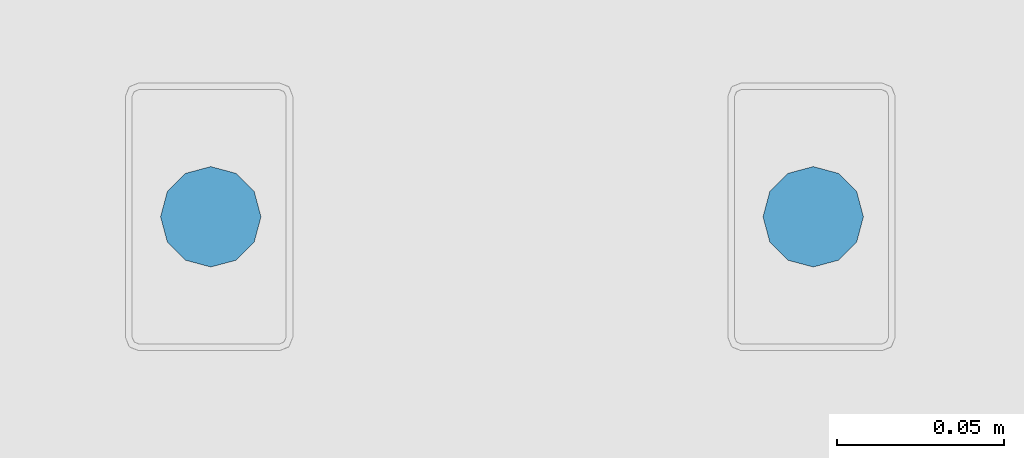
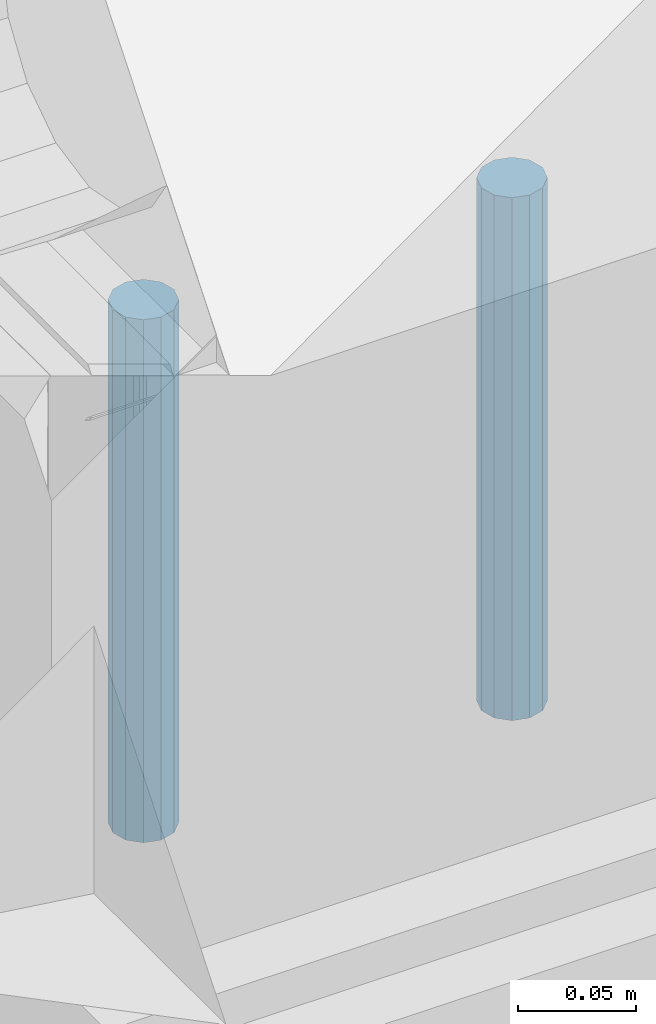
# One storey, part 201 of 230: 2 beams.
"""IFC4X3_ADD2 building model written with IfcOpenShell, lengths in millimetres."""

import ifcopenshell
import ifcopenshell.guid

model = None  # the IFC model being written
_history = None  # IfcOwnerHistory: only IFC2X3 demands one
_inside = {}  # id of a spatial element -> (the spatial element, [elements in it])
_under = {}  # id of a project, library or spatial element -> (it, [spatial elements below it])
_declared = {}  # id of a project -> (the project, [libraries it declares])
_typed = {}  # id of a type object -> (the type object, [elements of that type])
_made_of = {}  # id of a material, layer set ... -> (it, [elements and type objects made of it])


def new_model(schema):
    """Start an empty IFC model of exactly this schema.

    Asked for "IFC4X3", IfcOpenShell would pick the latest addendum, in which some entities
    have other attributes; the version numbers below select the first issue.
    IFC2X3 requires an IfcOwnerHistory on every rooted entity: one is made here for all.
    """
    global model, _history
    if schema == "IFC4X3":
        model = ifcopenshell.file(schema_version=(4, 3, 0, 0))
    else:
        model = ifcopenshell.file(schema=schema)
    _inside.clear()
    _under.clear()
    _declared.clear()
    _typed.clear()
    _made_of.clear()
    _history = None
    if model.schema == "IFC2X3":
        org = make("IfcOrganization", Name="unknown")
        user = make(
            "IfcPersonAndOrganization",
            ThePerson=make("IfcPerson", FamilyName="unknown"),
            TheOrganization=org,
        )
        app = make(
            "IfcApplication",
            ApplicationDeveloper=org,
            Version="unknown",
            ApplicationFullName="unknown",
            ApplicationIdentifier="unknown",
        )
        _history = make(
            "IfcOwnerHistory",
            OwningUser=user,
            OwningApplication=app,
            ChangeAction="ADDED",
            CreationDate=0,
        )
    return model


def make(cls, **values):
    """One entity of the class cls with the attributes given. An attribute that is None is left unset."""
    return model.create_entity(
        cls, **{name: value for name, value in values.items() if value is not None}
    )


def rooted(cls, **values):
    """An entity with a GlobalId (a new one), such as an element, a storey or a relation."""
    return make(cls, GlobalId=ifcopenshell.guid.new(), OwnerHistory=_history, **values)


def si_unit(unit_type, name, prefix=None):
    """IfcSIUnit, for example si_unit("LENGTHUNIT", "METRE", prefix="MILLI")."""
    return make("IfcSIUnit", UnitType=unit_type, Prefix=prefix, Name=name)


def assignment(units):
    """IfcUnitAssignment: the units of a project."""
    return None if units is None else make("IfcUnitAssignment", Units=units)


def point(xyz):
    """IfcCartesianPoint."""
    return None if xyz is None else make("IfcCartesianPoint", Coordinates=xyz)


def direction(xyz):
    """IfcDirection."""
    return None if xyz is None else make("IfcDirection", DirectionRatios=xyz)


def frame(location, z_axis=None, x_axis=None):
    """IfcAxis2Placement3D, a coordinate frame: its origin and axes. An axis left out is left unset."""
    return make(
        "IfcAxis2Placement3D",
        Location=point(location),
        Axis=direction(z_axis),
        RefDirection=direction(x_axis),
    )


def origin_with_axes():
    """The frame at (0, 0, 0) with the z axis (0, 0, 1) and the x axis (1, 0, 0) written out."""
    return frame((0.0, 0.0, 0.0), z_axis=(0.0, 0.0, 1.0), x_axis=(1.0, 0.0, 0.0))


def place(relative_to, where):
    """IfcLocalPlacement: puts the frame where relative to a parent placement (None: the world)."""
    return make(
        "IfcLocalPlacement", PlacementRelTo=relative_to, RelativePlacement=where
    )


def context(
    kind, dimensions, precision=None, world=None, true_north=None, identifier=None
):
    """IfcGeometricRepresentationContext, for example the 3D "Model" context."""
    return make(
        "IfcGeometricRepresentationContext",
        ContextIdentifier=identifier,
        ContextType=kind,
        CoordinateSpaceDimension=dimensions,
        Precision=precision,
        WorldCoordinateSystem=world,
        TrueNorth=true_north,
    )


def subcontext(parent, identifier, kind, view, scale=None):
    """IfcGeometricRepresentationSubContext, for example "Body" below "Model"."""
    return make(
        "IfcGeometricRepresentationSubContext",
        ContextIdentifier=identifier,
        ContextType=kind,
        ParentContext=parent,
        TargetScale=scale,
        TargetView=view,
    )


def project(units=None, contexts=None):
    """IfcProject with its units and contexts."""
    return rooted(
        "IfcProject",
        Name="project",
        RepresentationContexts=contexts,
        UnitsInContext=assignment(units),
    )


def spatial(cls, under=None, at=None, **own):
    """A site, building, storey or space (cls), placed at a placement, below another one or the project."""
    s = rooted(cls, ObjectPlacement=at, **own)
    if under is not None:
        _under.setdefault(under.id(), (under, []))[1].append(s)
    return s


def point_list(points):
    """IfcCartesianPointList2D or 3D."""
    cls = (
        "IfcCartesianPointList2D" if len(points[0]) == 2 else "IfcCartesianPointList3D"
    )
    return make(cls, CoordList=points)


def polygons(points, faces, closed=None, point_numbers=None):
    """IfcPolygonalFaceSet: a face is its outer loop, then its inner loops; points numbered from 1."""
    made = []
    for loops in faces:
        if len(loops) == 1:
            made.append(make("IfcIndexedPolygonalFace", CoordIndex=loops[0]))
        else:
            made.append(
                make(
                    "IfcIndexedPolygonalFaceWithVoids",
                    CoordIndex=loops[0],
                    InnerCoordIndices=loops[1:],
                )
            )
    return make(
        "IfcPolygonalFaceSet",
        Coordinates=point_list(points),
        Closed=closed,
        Faces=made,
        PnIndex=point_numbers,
    )


def shape(context_of_items, identifier, shape_type, items):
    """IfcShapeRepresentation: the items that make up one representation, for example the "Body"."""
    return make(
        "IfcShapeRepresentation",
        ContextOfItems=context_of_items,
        RepresentationIdentifier=identifier,
        RepresentationType=shape_type,
        Items=items,
    )


def made_of(thing, what):
    """Note that an element or type object is made of a material, layer set ...; save() writes the relation."""
    if what is not None:
        _made_of.setdefault(what.id(), (what, []))[1].append(thing)
    return thing


def element(
    cls,
    number,
    at=None,
    inside=None,
    cuts=None,
    type_object=None,
    material=None,
    context=None,
    identifier="Body",
    shape_type=None,
    held_by="IfcProductDefinitionShape",
    body=None,
    shapes=None,
    **own,
):
    """One element of the class cls, such as IfcWall. Its Tag is "e" and its number.

    at: its placement. inside: the storey or other place that contains it. cuts: it is an
    opening in that element (IfcRelVoidsElement). A single representation is given by context,
    identifier, shape_type and body (its items); several are given by shapes. held_by: the class
    of the entity that holds the representations. save() writes the other relations.
    """
    e = rooted(cls, Tag="e%d" % number, ObjectPlacement=at, **own)
    if body is not None:
        shapes = [shape(context, identifier, shape_type, body)]
    if shapes is not None:
        e.Representation = make(held_by, Representations=shapes)
    if inside is not None:
        _inside.setdefault(inside.id(), (inside, []))[1].append(e)
    if cuts is not None:
        rooted(
            "IfcRelVoidsElement", RelatingBuildingElement=cuts, RelatedOpeningElement=e
        )
    if type_object is not None:
        _typed.setdefault(type_object.id(), (type_object, []))[1].append(e)
    return made_of(e, material)


def aggregate(whole, parts):
    """IfcRelAggregates: a whole, such as a stair, and the parts it consists of."""
    return rooted("IfcRelAggregates", RelatingObject=whole, RelatedObjects=parts)


def save(model, path):
    """Write the relations noted so far, then the file.

    IfcRelAggregates (storeys below a building ...), IfcRelContainedInSpatialStructure (elements
    in a storey), IfcRelDefinesByType, IfcRelAssociatesMaterial and IfcRelDeclares: one each for
    every whole, place, type object, material and project.
    """
    for whole, parts in _under.values():
        aggregate(whole, parts)
    for where, things in _inside.values():
        rooted(
            "IfcRelContainedInSpatialStructure",
            RelatedElements=things,
            RelatingStructure=where,
        )
    for kind, things in _typed.values():
        rooted("IfcRelDefinesByType", RelatedObjects=things, RelatingType=kind)
    for what, things in _made_of.values():
        rooted("IfcRelAssociatesMaterial", RelatedObjects=things, RelatingMaterial=what)
    for by, libraries in _declared.values():
        rooted("IfcRelDeclares", RelatingContext=by, RelatedDefinitions=libraries)
    model.write(path)


model = new_model("IFC4X3_ADD2")

# Units and contexts
model_context = context("Model", 3, precision=1e-05, world=origin_with_axes(), true_north=direction((0.0, 1.0)))
body_context = subcontext(model_context, "Body", "Model", "MODEL_VIEW")
ifc_project = project(units=[si_unit("LENGTHUNIT", "METRE", prefix="MILLI"), si_unit("AREAUNIT", "SQUARE_METRE"), si_unit("VOLUMEUNIT", "CUBIC_METRE"), si_unit("PLANEANGLEUNIT", "RADIAN"), si_unit("TIMEUNIT", "SECOND"), si_unit("MASSUNIT", "GRAM")], contexts=[model_context])

# Site, building, storey
site_placement = place(None, origin_with_axes())
site = spatial("IfcSite", under=ifc_project, at=site_placement, Name="Site", CompositionType="ELEMENT")
building_placement = place(site_placement, origin_with_axes())
building = spatial("IfcBuilding", under=site, at=building_placement, Name="IFC Building Story")
storey_placement = place(building_placement, origin_with_axes())
storey = spatial("IfcBuildingStorey", under=building, at=storey_placement, Name="ETAGE 00 (0)", Elevation=0.0)

# Beams
beam_1_placement = place(storey_placement, origin_with_axes())
element("IfcBeam", 1, at=beam_1_placement, inside=storey, Name="SD11", ObjectType="D30", context=body_context, shape_type="Tessellation", body=[
    polygons([(48206.1886362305, 12640.0006109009, 3960.0), (48206.1886362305, 12640.0006109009, 3690.0), (48208.19825517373, 12632.5006109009, 3690.0), (48208.19825517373, 12632.5006109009, 3960.0), (48213.6886362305, 12627.01022984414, 3690.0), (48213.6886362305, 12627.01022984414, 3960.0), (48221.18863623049, 12625.0006109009, 3690.0), (48221.18863623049, 12625.0006109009, 3960.0), (48228.68863623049, 12627.01022984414, 3690.0), (48228.68863623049, 12627.01022984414, 3960.0), (48234.17901728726, 12632.5006109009, 3690.0), (48234.17901728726, 12632.5006109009, 3960.0), (48236.1886362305, 12640.0006109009, 3690.0), (48236.1886362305, 12640.0006109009, 3960.0), (48234.17901728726, 12647.50061090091, 3690.0), (48234.17901728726, 12647.50061090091, 3960.0), (48228.68863623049, 12652.99099195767, 3690.0), (48228.68863623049, 12652.99099195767, 3960.0), (48221.18863623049, 12655.0006109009, 3690.0), (48221.18863623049, 12655.0006109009, 3960.0), (48213.6886362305, 12652.99099195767, 3690.0), (48213.6886362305, 12652.99099195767, 3960.0), (48208.19825517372, 12647.5006109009, 3690.0), (48208.19825517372, 12647.5006109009, 3960.0)], [[[1, 2, 3, 4]], [[4, 3, 5, 6]], [[6, 5, 7, 8]], [[8, 7, 9, 10]], [[10, 9, 11, 12]], [[12, 11, 13, 14]], [[14, 13, 15, 16]], [[16, 15, 17, 18]], [[18, 17, 19, 20]], [[20, 19, 21, 22]], [[22, 21, 23, 24]], [[24, 23, 2, 1]], [[4, 6, 8]], [[4, 8, 10]], [[4, 10, 12]], [[4, 12, 14]], [[4, 14, 16]], [[4, 16, 18]], [[4, 18, 20]], [[4, 20, 22]], [[4, 22, 24]], [[4, 24, 1]], [[2, 23, 21]], [[2, 21, 19]], [[2, 19, 17]], [[2, 17, 15]], [[2, 15, 13]], [[2, 13, 11]], [[2, 11, 9]], [[2, 9, 7]], [[2, 7, 5]], [[2, 5, 3]]]),
])
beam_2_placement = place(storey_placement, origin_with_axes())
element("IfcBeam", 2, at=beam_2_placement, inside=storey, Name="SD11", ObjectType="D30", context=body_context, shape_type="Tessellation", body=[
    polygons([(48386.1886362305, 12640.0006109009, 3960.0), (48386.1886362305, 12640.0006109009, 3690.0), (48388.19825517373, 12632.5006109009, 3690.0), (48388.19825517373, 12632.5006109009, 3960.0), (48393.6886362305, 12627.01022984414, 3690.0), (48393.6886362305, 12627.01022984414, 3960.0), (48401.18863623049, 12625.0006109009, 3690.0), (48401.18863623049, 12625.0006109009, 3960.0), (48408.68863623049, 12627.01022984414, 3690.0), (48408.68863623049, 12627.01022984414, 3960.0), (48414.17901728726, 12632.5006109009, 3690.0), (48414.17901728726, 12632.5006109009, 3960.0), (48416.1886362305, 12640.0006109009, 3690.0), (48416.1886362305, 12640.0006109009, 3960.0), (48414.17901728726, 12647.50061090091, 3690.0), (48414.17901728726, 12647.50061090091, 3960.0), (48408.68863623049, 12652.99099195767, 3690.0), (48408.68863623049, 12652.99099195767, 3960.0), (48401.18863623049, 12655.0006109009, 3690.0), (48401.18863623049, 12655.0006109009, 3960.0), (48393.6886362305, 12652.99099195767, 3690.0), (48393.6886362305, 12652.99099195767, 3960.0), (48388.19825517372, 12647.5006109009, 3690.0), (48388.19825517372, 12647.5006109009, 3960.0)], [[[1, 2, 3, 4]], [[4, 3, 5, 6]], [[6, 5, 7, 8]], [[8, 7, 9, 10]], [[10, 9, 11, 12]], [[12, 11, 13, 14]], [[14, 13, 15, 16]], [[16, 15, 17, 18]], [[18, 17, 19, 20]], [[20, 19, 21, 22]], [[22, 21, 23, 24]], [[24, 23, 2, 1]], [[4, 6, 8]], [[4, 8, 10]], [[4, 10, 12]], [[4, 12, 14]], [[4, 14, 16]], [[4, 16, 18]], [[4, 18, 20]], [[4, 20, 22]], [[4, 22, 24]], [[4, 24, 1]], [[2, 23, 21]], [[2, 21, 19]], [[2, 19, 17]], [[2, 17, 15]], [[2, 15, 13]], [[2, 13, 11]], [[2, 11, 9]], [[2, 9, 7]], [[2, 7, 5]], [[2, 5, 3]]]),
])

save(model, "model.ifc")
